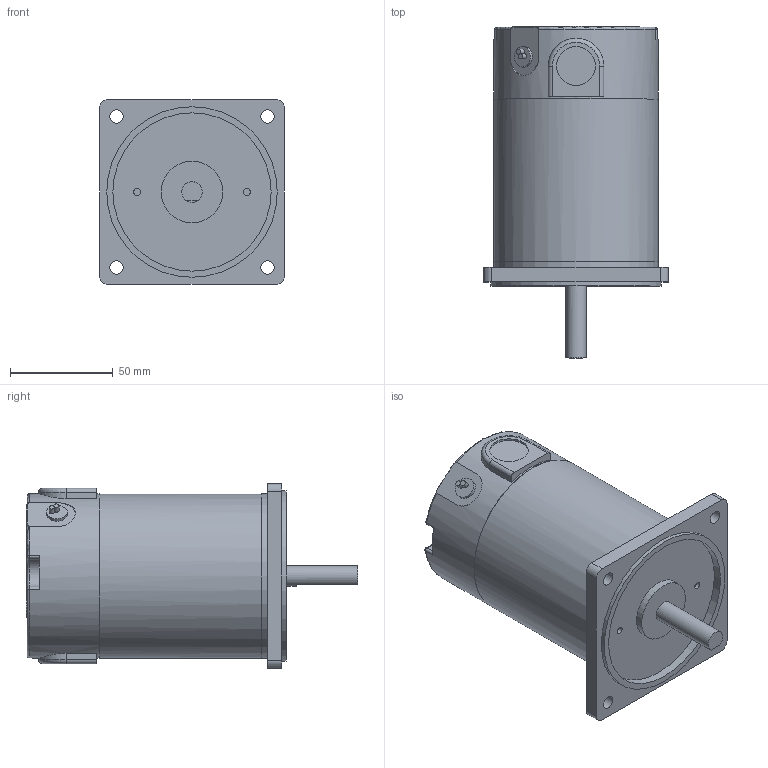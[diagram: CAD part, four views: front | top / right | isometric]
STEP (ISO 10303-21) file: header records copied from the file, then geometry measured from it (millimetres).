
FILE_DESCRIPTION((''),'2;1');
FILE_NAME('E:\2공장-도면\3D\표준형 3D(민규)\step file\K9DS40N.stp','2014-11-06T15:04:45',('AHN'),(''),'Autodesk Inventor 2012','Autodesk Inventor 2012','');
FILE_SCHEMA(('CONFIG_CONTROL_DESIGN'));
Length unit declared in the file: millimetre
Products named in the file (1): K9DS40N
Bounding box: 90 x 161.5 x 90 mm (x, y, z)
Volume: 642718.1 mm3; surface area: 52730 mm2
Topology: 1 solids, 1 shells, 129 faces, 292 edges, 186 vertices
Faces by surface type: plane 63, cylinder 55, torus 7, sphere 4
Full cylindrical faces by diameter (mm): 2.6 x2, 3.4 x2, 6.5 x4, 10 x2, 19 x2, 30 x2, 77 x1, 80 x2, 80.1 x1, 83 x1
Entity records: 3628 total; most frequent: CARTESIAN_POINT 679, DIRECTION 650, ORIENTED_EDGE 540, EDGE_CURVE 270, AXIS2_PLACEMENT_3D 255, VERTEX_POINT 182, EDGE_LOOP 177, VECTOR 140
